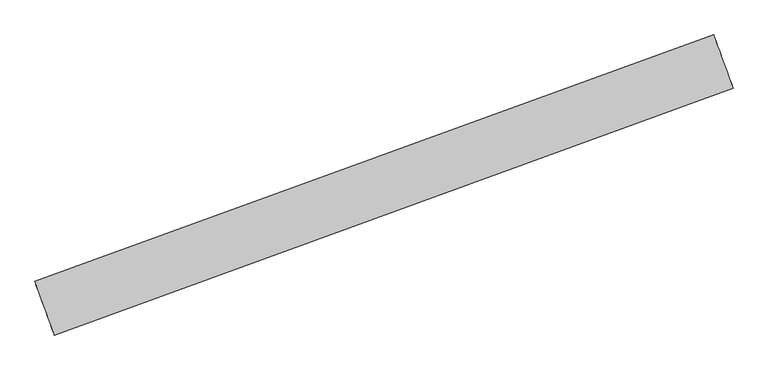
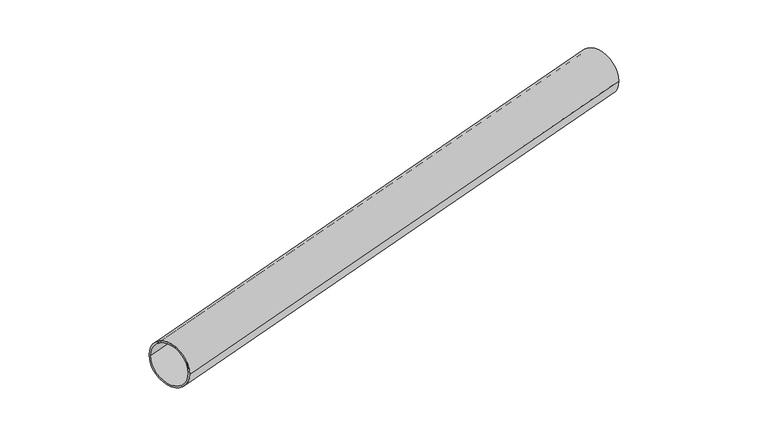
"""IFC4 building model written with IfcOpenShell, lengths in millimetres: valve geometry, Svalbardrør : Svalbardrør."""

from ifc_helpers import new_model, si_unit, point, frame, frame_2d, origin, place, context, project, spatial, circle_curve, trimmed, segment, composite_curve, outline, extrude, source, transform, mapped, element, save


def valve_04df82be(model_context):
    return source(origin(), model_context, "Body", "SweptSolid", [
        extrude(outline(composite_curve([segment(trimmed(circle_curve(frame_2d((-600.0, 0.0)), 600.0), [point((-600.0, -600.0))], [point((-600.0, 599.9999999))], False, "CARTESIAN"), True, "CONTINUOUS"), segment(trimmed(circle_curve(frame_2d((-600.0, 0.0)), 600.0), [point((-600.0, 599.9999999))], [point((-600.0, -600.0))], False, "CARTESIAN"), True, "CONTINUOUS")], self_intersect=False), holes=[composite_curve([segment(trimmed(circle_curve(frame_2d((-600.0, 0.0)), 550.0), [point((-600.0, -550.0000001))], [point((-600.0, 550.0))], True, "CARTESIAN"), True, "CONTINUOUS"), segment(trimmed(circle_curve(frame_2d((-600.0, 0.0)), 550.0), [point((-600.0, 550.0))], [point((-600.0, -550.0000001))], True, "CARTESIAN"), True, "CONTINUOUS")], self_intersect=False)]), frame((40812.4558735, -43359.8981797, 1500.0), z_axis=(0.9396926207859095, 0.3420201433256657, 0.0), x_axis=(0.0, 0.0, 1.0)), (0.0, 0.0, 1.0), 15200.0),
    ])


if __name__ == "__main__":
    model = new_model("IFC4")
    model_context = context("Model", 3, world=origin())
    ifc_project = project(units=[si_unit("LENGTHUNIT", "METRE", prefix="MILLI")], contexts=[model_context])
    site = spatial("IfcSite", under=ifc_project)
    building = spatial("IfcBuilding", under=site)
    placement = place(None, origin())
    valve_shape = valve_04df82be(model_context)
    element("IfcValve", 1, ObjectType="Svalbardrør : Svalbardrør", at=placement, inside=building, context=model_context, shape_type="MappedRepresentation", body=[
        mapped(valve_shape, transform((0.0, 0.0, 0.0), x_axis=(1.0, 0.0, 0.0), y_axis=(0.0, 1.0, 0.0), z_axis=(0.0, 0.0, 1.0))),
    ])
    save(model, "model.ifc")
